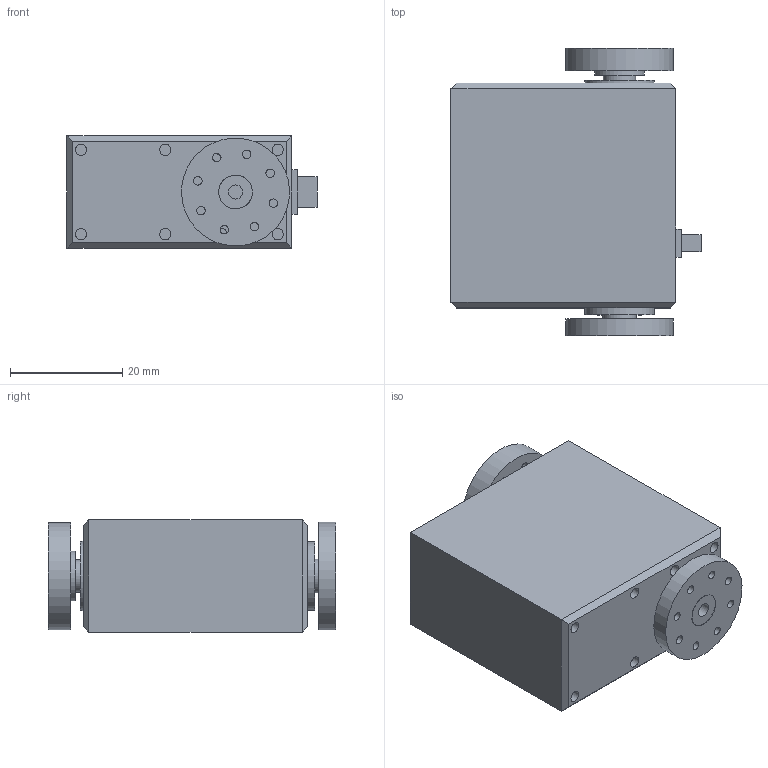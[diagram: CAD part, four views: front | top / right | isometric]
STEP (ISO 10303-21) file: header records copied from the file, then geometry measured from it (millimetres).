
FILE_DESCRIPTION(/* description */ (''),/* implementation_level */ '2;1');
FILE_NAME(/* name */ 'C:/Users/priba/Documents/Temp/mrm-rd-5606hb-300.step',/* time_stamp */ '2020-04-27T09:24:25+02:00',/* author */ (''),/* organization */ (''),/* preprocessor_version */ 'ST-DEVELOPER v18.1',/* originating_system */ 'Autodesk Translation Framework v9.2.0.1227',/* authorisation */ '');
FILE_SCHEMA (('AUTOMOTIVE_DESIGN { 1 0 10303 214 3 1 1 }'));
Length unit declared in the file: millimetre
Products named in the file (4): mrm-rd-5606hb-300; ServoBody; TopHorn; BottomHorn
Assembly tree (3 placements, depth 2):
  mrm-rd-5606hb-300
    ServoBody
    TopHorn
    BottomHorn
Bounding box: 44.5 x 51.15 x 20 mm (x, y, z)
Volume: 33826.4 mm3; surface area: 9117.6 mm2
Topology: 3 solids, 3 shells, 94 faces, 192 edges, 130 vertices
Faces by surface type: plane 52, cylinder 42
Full cylindrical faces by diameter (mm): 1.5 x15, 2 x15, 2.5 x3, 5.6 x1, 5.75 x1, 6 x2, 8.8 x1, 12.3 x2, 19.1 x1, 19.2 x1
Entity records: 2703 total; most frequent: DIRECTION 492, CARTESIAN_POINT 423, ORIENTED_EDGE 384, AXIS2_PLACEMENT_3D 199, EDGE_CURVE 192, EDGE_LOOP 152, VERTEX_POINT 130, CIRCLE 98
